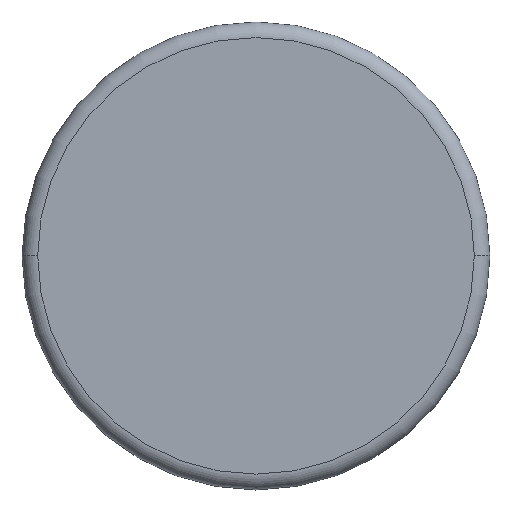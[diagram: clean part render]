
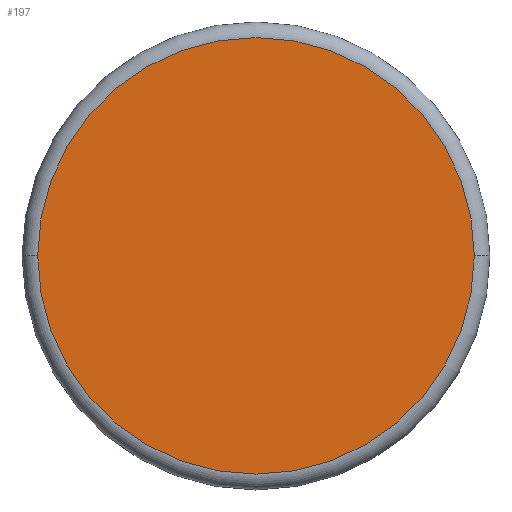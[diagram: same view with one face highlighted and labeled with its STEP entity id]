
A CAD part, top view. The second image highlights one B-rep face of the part: STEP entity #197.
In plain terms, the highlighted planar face has unit normal (0, 0, 1).
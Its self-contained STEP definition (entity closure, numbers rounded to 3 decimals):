
#8 = DIRECTION ( 'NONE',  ( 0., 0., 1. ) ) ;
#19 = AXIS2_PLACEMENT_3D ( 'NONE', #142, #64, #119 ) ;
#27 = CARTESIAN_POINT ( 'NONE',  ( 0., 0., 1. ) ) ;
#31 = ORIENTED_EDGE ( 'NONE', *, *, #46, .T. ) ;
#41 = DIRECTION ( 'NONE',  ( 1., 0., 0. ) ) ;
#46 = EDGE_CURVE ( 'NONE', #125, #153, #170, .T. ) ;
#64 = DIRECTION ( 'NONE',  ( 0., 0., 1. ) ) ;
#65 = CIRCLE ( 'NONE', #19, 1.4 ) ;
#76 = AXIS2_PLACEMENT_3D ( 'NONE', #77, #178, #110 ) ;
#77 = CARTESIAN_POINT ( 'NONE',  ( 0., 0., 1. ) ) ;
#82 = CARTESIAN_POINT ( 'NONE',  ( 1.4, 0., 1. ) ) ;
#95 = CARTESIAN_POINT ( 'NONE',  ( -1.4, 0., 1. ) ) ;
#97 = EDGE_CURVE ( 'NONE', #153, #125, #65, .T. ) ;
#105 = EDGE_LOOP ( 'NONE', ( #207, #31 ) ) ;
#110 = DIRECTION ( 'NONE',  ( 1., 0., 0. ) ) ;
#119 = DIRECTION ( 'NONE',  ( 1., 0., 0. ) ) ;
#125 = VERTEX_POINT ( 'NONE', #95 ) ;
#142 = CARTESIAN_POINT ( 'NONE',  ( 0., 0., 1. ) ) ;
#153 = VERTEX_POINT ( 'NONE', #82 ) ;
#170 = CIRCLE ( 'NONE', #76, 1.4 ) ;
#178 = DIRECTION ( 'NONE',  ( 0., 0., 1. ) ) ;
#183 = PLANE ( 'NONE',  #186 ) ;
#186 = AXIS2_PLACEMENT_3D ( 'NONE', #27, #8, #41 ) ;
#197 = ADVANCED_FACE ( 'NONE', ( #206 ), #183, .T. ) ;
#206 = FACE_OUTER_BOUND ( 'NONE', #105, .T. ) ;
#207 = ORIENTED_EDGE ( 'NONE', *, *, #97, .T. ) ;
